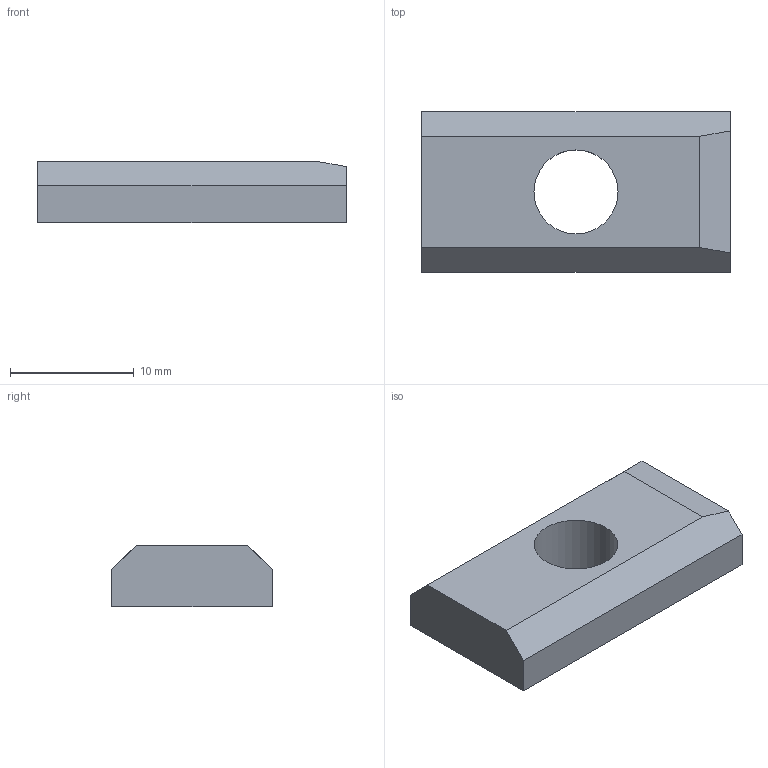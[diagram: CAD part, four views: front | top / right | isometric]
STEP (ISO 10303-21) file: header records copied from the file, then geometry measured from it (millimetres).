
FILE_DESCRIPTION (( 'STEP AP214' ), '1' );
FILE_NAME ('SF01012.step', '2024-12-03T16:29:24', ( '' ), ( '' ), 'SwSTEP 2.0', 'SolidWorks 2023', '' );
FILE_SCHEMA (( 'AUTOMOTIVE_DESIGN' ));
Length unit declared in the file: millimetre
Products named in the file (1): SF01012
Bounding box: 25 x 13 x 5 mm (x, y, z)
Volume: 1338.3 mm3; surface area: 993.3 mm2
Topology: 1 solids, 1 shells, 10 faces, 24 edges, 16 vertices
Faces by surface type: plane 9, cylinder 1
Full cylindrical faces by diameter (mm): 6.8 x1
Entity records: 312 total; most frequent: CARTESIAN_POINT 50, DIRECTION 47, ORIENTED_EDGE 46, EDGE_CURVE 23, LINE 21, VECTOR 21, VERTEX_POINT 16, AXIS2_PLACEMENT_3D 13
